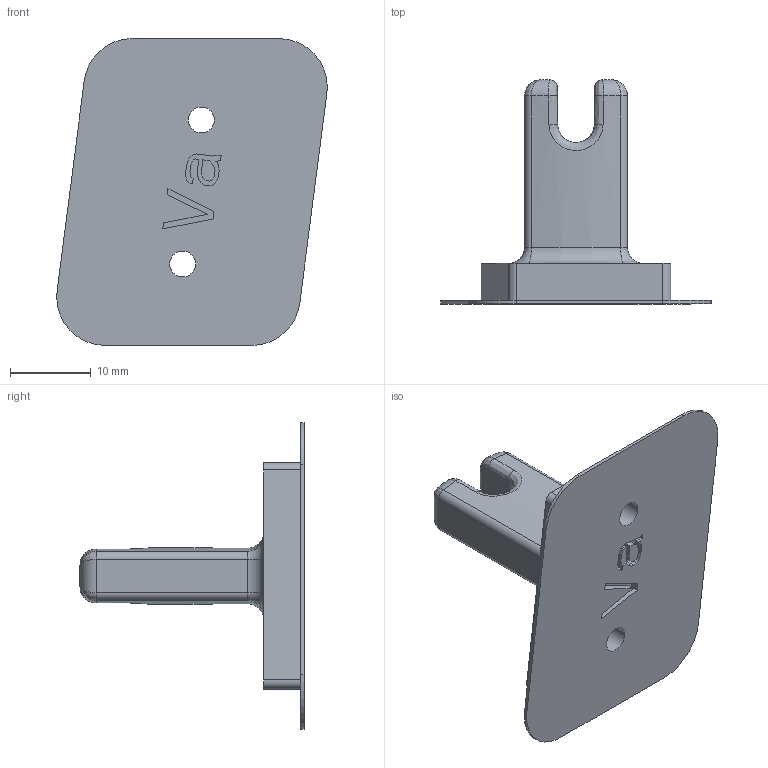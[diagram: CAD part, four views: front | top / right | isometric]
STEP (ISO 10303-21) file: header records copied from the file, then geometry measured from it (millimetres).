
FILE_DESCRIPTION((''),'2;1');
FILE_NAME('0000187332','2024-01-10T08:46:03',('Wyndorps'),(''),'CREO PARAMETRIC BY PTC INC, 2022484','CREO PARAMETRIC BY PTC INC, 2022484','');
FILE_SCHEMA(('CONFIG_CONTROL_DESIGN'));
Length unit declared in the file: millimetre
Products named in the file (1): 0000187332
Bounding box: 33.5 x 27.75 x 38 mm (x, y, z)
Volume: 4582.7 mm3; surface area: 3600.8 mm2
Topology: 1 solids, 1 shells, 132 faces, 339 edges, 214 vertices
Faces by surface type: plane 79, cylinder 25, bspline 14, torus 10, cone 4
Entity records: 5051 total; most frequent: CARTESIAN_POINT 1855, ORIENTED_EDGE 678, DIRECTION 619, EDGE_CURVE 339, VECTOR 239, LINE 239, VERTEX_POINT 214, AXIS2_PLACEMENT_3D 190
